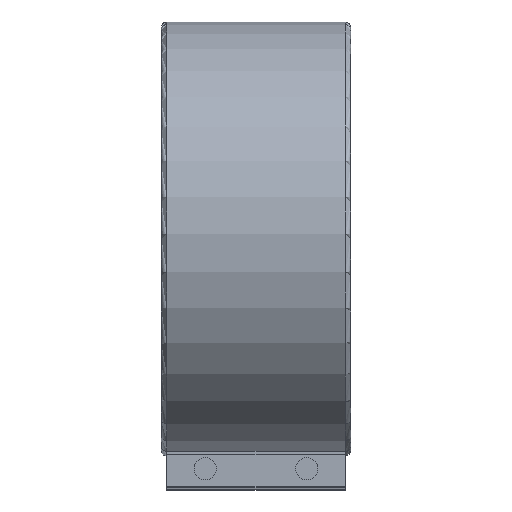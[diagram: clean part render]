
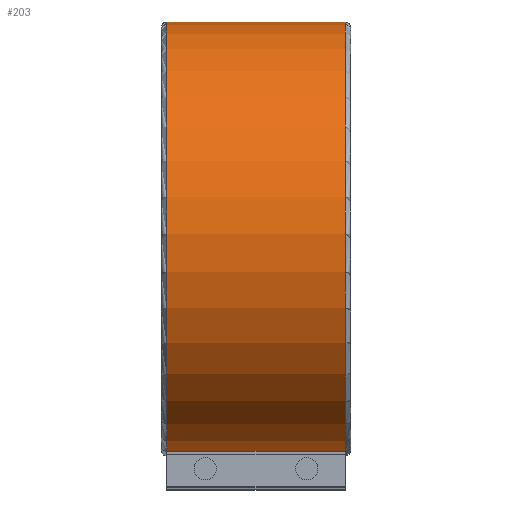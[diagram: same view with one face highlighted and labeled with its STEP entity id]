
A CAD part, top view. The second image highlights one B-rep face of the part: STEP entity #203.
In plain terms, the highlighted cylindrical face has radius 78 mm (diameter 156 mm), a partial arc.
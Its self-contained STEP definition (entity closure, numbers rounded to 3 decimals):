
#203 = ADVANCED_FACE( '', ( #501 ), #502, .T. );
#501 = FACE_OUTER_BOUND( '', #914, .T. );
#502 = CYLINDRICAL_SURFACE( '', #915, 78. );
#914 = EDGE_LOOP( '', ( #1480, #1481, #1482, #1483 ) );
#915 = AXIS2_PLACEMENT_3D( '', #1484, #1485, #1486 );
#1480 = ORIENTED_EDGE( '', *, *, #2379, .T. );
#1481 = ORIENTED_EDGE( '', *, *, #2380, .T. );
#1482 = ORIENTED_EDGE( '', *, *, #2381, .F. );
#1483 = ORIENTED_EDGE( '', *, *, #2382, .T. );
#1484 = CARTESIAN_POINT( '', ( 34., 0., 0. ) );
#1485 = DIRECTION( '', ( -1., 0., 0. ) );
#1486 = DIRECTION( '', ( 0., 0., -1. ) );
#2379 = EDGE_CURVE( '', #2868, #2869, #2870, .T. );
#2380 = EDGE_CURVE( '', #2869, #2871, #2872, .T. );
#2381 = EDGE_CURVE( '', #2873, #2871, #2874, .T. );
#2382 = EDGE_CURVE( '', #2873, #2868, #2875, .F. );
#2868 = VERTEX_POINT( '', #3577 );
#2869 = VERTEX_POINT( '', #3578 );
#2870 = CIRCLE( '', #3579, 78. );
#2871 = VERTEX_POINT( '', #3580 );
#2872 = LINE( '', #3581, #3582 );
#2873 = VERTEX_POINT( '', #3583 );
#2874 = CIRCLE( '', #3584, 78. );
#2875 = LINE( '', #3585, #3586 );
#3577 = CARTESIAN_POINT( '', ( -32.128, -76.393, -15.75 ) );
#3578 = CARTESIAN_POINT( '', ( -32.128, -76.393, 15.75 ) );
#3579 = AXIS2_PLACEMENT_3D( '', #4179, #4180, #4181 );
#3580 = CARTESIAN_POINT( '', ( 32.128, -76.393, 15.75 ) );
#3581 = CARTESIAN_POINT( '', ( 34., -76.393, 15.75 ) );
#3582 = VECTOR( '', #4182, 1000. );
#3583 = CARTESIAN_POINT( '', ( 32.128, -76.393, -15.75 ) );
#3584 = AXIS2_PLACEMENT_3D( '', #4183, #4184, #4185 );
#3585 = CARTESIAN_POINT( '', ( 34., -76.393, -15.75 ) );
#3586 = VECTOR( '', #4186, 1000. );
#4179 = CARTESIAN_POINT( '', ( -32.128, 0., 0. ) );
#4180 = DIRECTION( '', ( 1., 0., 0. ) );
#4181 = DIRECTION( '', ( 0., 0., -1. ) );
#4182 = DIRECTION( '', ( 1., 0., 0. ) );
#4183 = CARTESIAN_POINT( '', ( 32.128, 0., 0. ) );
#4184 = DIRECTION( '', ( 1., 0., 0. ) );
#4185 = DIRECTION( '', ( 0., 0., -1. ) );
#4186 = DIRECTION( '', ( 1., 0., 0. ) );
